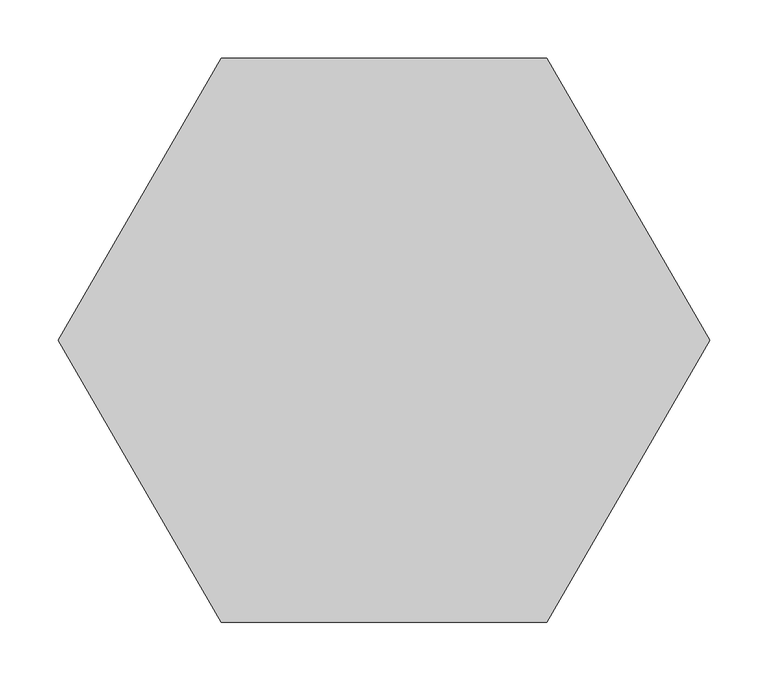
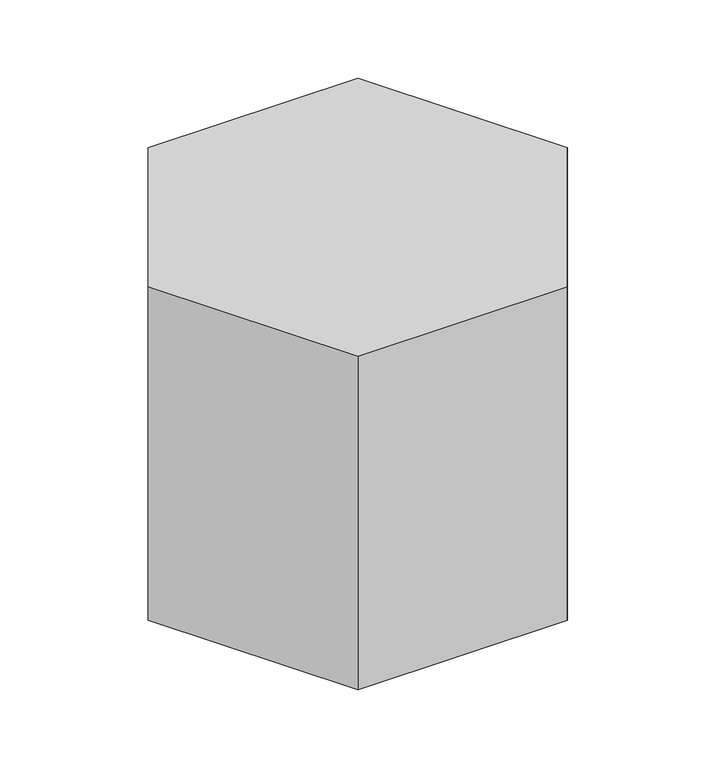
"""IFC4 building model written with IfcOpenShell, lengths in millimetres: furniture geometry, Hive Hexigon Table : Hive Hexigon Table."""

from ifc_helpers import new_model, si_unit, origin, origin_with_axes, place, context, project, spatial, polyline, outline, extrude, source, transform, mapped, element, save


def furniture_a8070051(model_context):
    return source(origin(), model_context, "Body", "SweptSolid", [
        extrude(outline(polyline([(279.4502256, -0.0012063), (139.7250968, -242.0), (-139.7250968, -242.0), (-279.4501804, -0.0012845), (-139.7250384, 242.0), (139.7251288, 242.0), (279.4502256, -0.0012063)])), origin_with_axes(), (0.0, 0.0, 1.0), 469.9997253),
    ])


if __name__ == "__main__":
    model = new_model("IFC4")
    model_context = context("Model", 3, world=origin())
    ifc_project = project(units=[si_unit("LENGTHUNIT", "METRE", prefix="MILLI")], contexts=[model_context])
    site = spatial("IfcSite", under=ifc_project)
    building = spatial("IfcBuilding", under=site)
    placement = place(None, origin())
    furniture_shape = furniture_a8070051(model_context)
    element("IfcFurniture", 1, ObjectType="Hive Hexigon Table : Hive Hexigon Table", at=placement, inside=building, context=model_context, shape_type="MappedRepresentation", body=[
        mapped(furniture_shape, transform((0.0, 0.0, 0.0), x_axis=(1.0, 0.0, 0.0), y_axis=(0.0, 1.0, 0.0), z_axis=(0.0, 0.0, 1.0))),
    ])
    save(model, "model.ifc")
